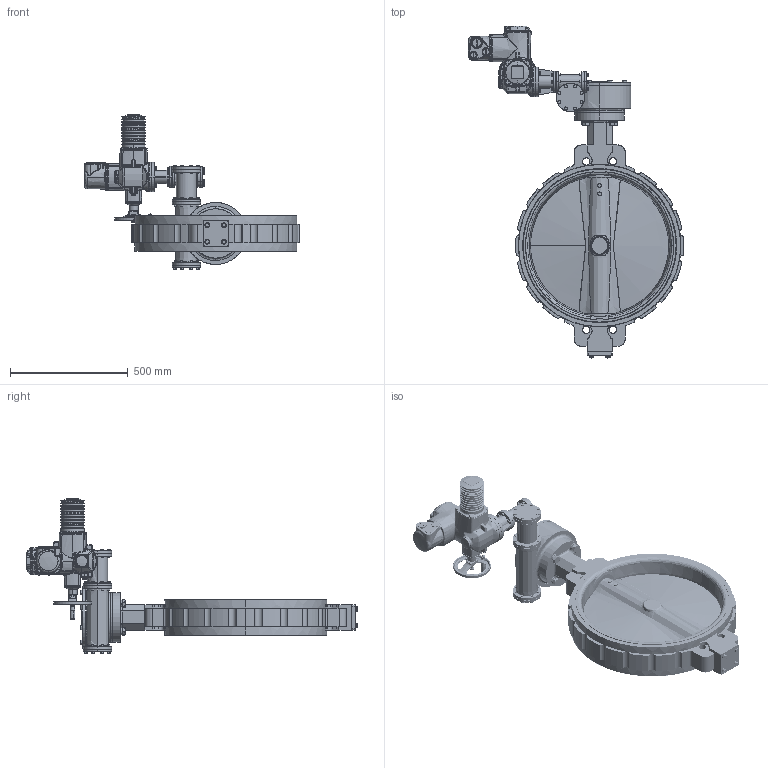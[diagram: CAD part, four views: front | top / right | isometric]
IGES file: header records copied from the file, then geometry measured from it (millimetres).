
Start section: SolidWorks IGES file using analytic representation for surfaces
Global section: file name: H:\BE BIBLIOTHEQUE 3D\BE SECTION 01 - ROBINETS A PAPILLON_VANNES PASSAGE DIRECTE\VP - Vanne Papillon\VPE\WORLDVALVE\WAFER\TECLARGE\VPE440X-UX4\PN10\DN600\VPE440X-U04EP0600.IGS; native system: SolidWorks 2017; preprocessor: SolidWorks 2017; author: k.gigout; date: 200804.135248; units: millimetre
Bounding box: 915.92 x 1411.8 x 655.46 mm (x, y, z)
Surface area: 3286411.4 mm2 (no closed solid volume)
Topology: 0 solids, 0 shells, 1969 faces, 31998 edges, 31975 vertices
Faces by surface type: bspline 1191, revolution 778
